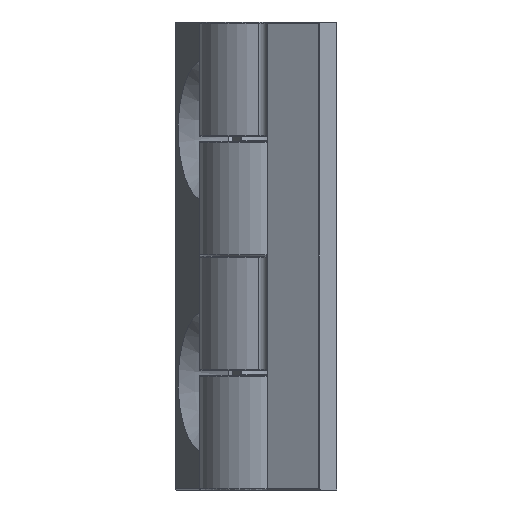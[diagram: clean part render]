
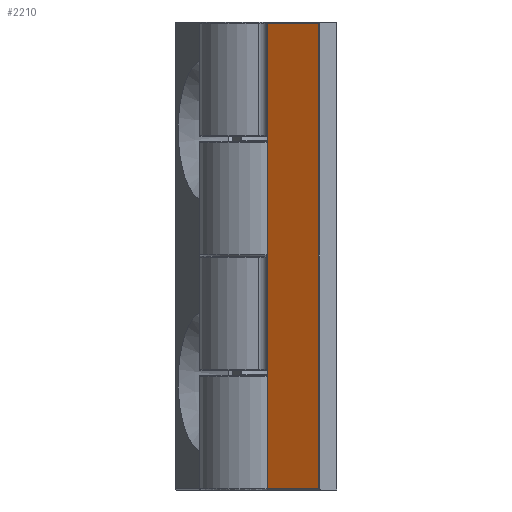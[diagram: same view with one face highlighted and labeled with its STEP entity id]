
A CAD part, left-side view. The second image highlights one B-rep face of the part: STEP entity #2210.
In plain terms, the highlighted planar face has unit normal (-0.866, 0.5, 0).
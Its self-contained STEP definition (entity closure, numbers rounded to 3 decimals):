
#79 = EDGE_CURVE ( 'NONE', #2230, #1256, #450, .T. ) ;
#257 = DIRECTION ( 'NONE',  ( 0.866, -0.5, 0. ) ) ;
#368 = AXIS2_PLACEMENT_3D ( 'NONE', #2316, #257, #1387 ) ;
#375 = LINE ( 'NONE', #1532, #977 ) ;
#385 = DIRECTION ( 'NONE',  ( 0., 0., 1. ) ) ;
#450 = LINE ( 'NONE', #922, #893 ) ;
#498 = CARTESIAN_POINT ( 'NONE',  ( -12.987, 1.723, 22.4 ) ) ;
#550 = VERTEX_POINT ( 'NONE', #2016 ) ;
#604 = LINE ( 'NONE', #1311, #1575 ) ;
#893 = VECTOR ( 'NONE', #385, 1000. ) ;
#912 = VECTOR ( 'NONE', #1918, 1000. ) ;
#922 = CARTESIAN_POINT ( 'NONE',  ( -12.987, 1.723, 22.5 ) ) ;
#977 = VECTOR ( 'NONE', #1741, 1000. ) ;
#997 = CARTESIAN_POINT ( 'NONE',  ( -12.987, 1.723, -22.4 ) ) ;
#1049 = LINE ( 'NONE', #1553, #912 ) ;
#1076 = ORIENTED_EDGE ( 'NONE', *, *, #79, .T. ) ;
#1115 = VERTEX_POINT ( 'NONE', #1170 ) ;
#1170 = CARTESIAN_POINT ( 'NONE',  ( -10.142, 6.65, 22.4 ) ) ;
#1256 = VERTEX_POINT ( 'NONE', #498 ) ;
#1311 = CARTESIAN_POINT ( 'NONE',  ( -13., 1.7, -22.4 ) ) ;
#1387 = DIRECTION ( 'NONE',  ( 0., 0., 1. ) ) ;
#1412 = ORIENTED_EDGE ( 'NONE', *, *, #1527, .T. ) ;
#1445 = FACE_OUTER_BOUND ( 'NONE', #1882, .T. ) ;
#1478 = EDGE_CURVE ( 'NONE', #1115, #550, #1049, .T. ) ;
#1527 = EDGE_CURVE ( 'NONE', #1256, #1115, #375, .T. ) ;
#1532 = CARTESIAN_POINT ( 'NONE',  ( -10.171, 6.6, 22.4 ) ) ;
#1550 = PLANE ( 'NONE',  #368 ) ;
#1553 = CARTESIAN_POINT ( 'NONE',  ( -10.142, 6.65, -22.5 ) ) ;
#1575 = VECTOR ( 'NONE', #2086, 1000. ) ;
#1741 = DIRECTION ( 'NONE',  ( 0.5, 0.866, 0. ) ) ;
#1789 = ORIENTED_EDGE ( 'NONE', *, *, #2090, .T. ) ;
#1806 = ORIENTED_EDGE ( 'NONE', *, *, #1478, .T. ) ;
#1882 = EDGE_LOOP ( 'NONE', ( #1412, #1806, #1789, #1076 ) ) ;
#1918 = DIRECTION ( 'NONE',  ( 0., 0., -1. ) ) ;
#2016 = CARTESIAN_POINT ( 'NONE',  ( -10.142, 6.65, -22.4 ) ) ;
#2086 = DIRECTION ( 'NONE',  ( -0.5, -0.866, 0. ) ) ;
#2090 = EDGE_CURVE ( 'NONE', #550, #2230, #604, .T. ) ;
#2210 = ADVANCED_FACE ( 'NONE', ( #1445 ), #1550, .F. ) ;
#2230 = VERTEX_POINT ( 'NONE', #997 ) ;
#2316 = CARTESIAN_POINT ( 'NONE',  ( -10.113, 6.7, 0. ) ) ;
